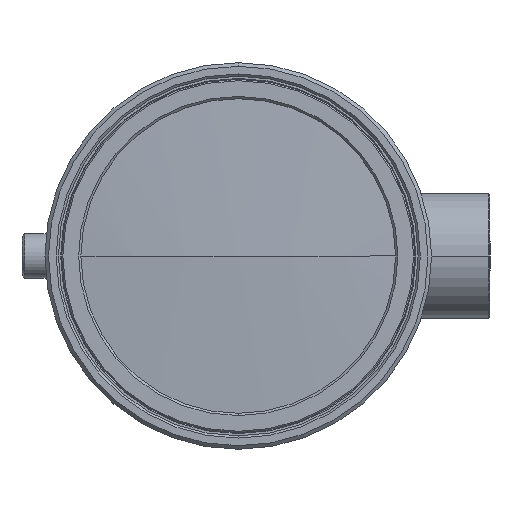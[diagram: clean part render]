
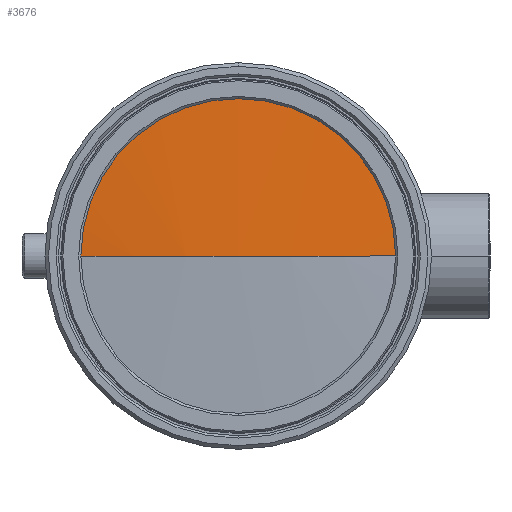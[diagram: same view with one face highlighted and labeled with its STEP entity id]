
A CAD part, left-side view. The second image highlights one B-rep face of the part: STEP entity #3676.
In plain terms, the highlighted spherical face has radius 200 mm.
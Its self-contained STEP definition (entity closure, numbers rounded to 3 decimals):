
#19 = VERTEX_POINT ( 'NONE', #2791 ) ;
#112 = DIRECTION ( 'NONE',  ( 0., 0., 1. ) ) ;
#115 = ORIENTED_EDGE ( 'NONE', *, *, #3344, .F. ) ;
#146 = CARTESIAN_POINT ( 'NONE',  ( -215.239, 17.5, 0. ) ) ;
#391 = CARTESIAN_POINT ( 'NONE',  ( -16.006, 0., 0. ) ) ;
#500 = DIRECTION ( 'NONE',  ( 0., 0., 1. ) ) ;
#679 = EDGE_CURVE ( 'NONE', #19, #3654, #1656, .T. ) ;
#715 = EDGE_LOOP ( 'NONE', ( #2792, #1383, #115, #2400 ) ) ;
#731 = CIRCLE ( 'NONE', #3308, 17.5 ) ;
#737 = AXIS2_PLACEMENT_3D ( 'NONE', #1484, #1205, #2057 ) ;
#912 = AXIS2_PLACEMENT_3D ( 'NONE', #391, #112, #2142 ) ;
#1151 = DIRECTION ( 'NONE',  ( 0., 0., -1. ) ) ;
#1205 = DIRECTION ( 'NONE',  ( 0., 0., -1. ) ) ;
#1383 = ORIENTED_EDGE ( 'NONE', *, *, #679, .T. ) ;
#1471 = DIRECTION ( 'NONE',  ( 1., 0., 0. ) ) ;
#1484 = CARTESIAN_POINT ( 'NONE',  ( -16.006, 0., 0. ) ) ;
#1532 = AXIS2_PLACEMENT_3D ( 'NONE', #2324, #1471, #1151 ) ;
#1656 = CIRCLE ( 'NONE', #912, 200. ) ;
#1677 = EDGE_CURVE ( 'NONE', #2693, #1791, #731, .T. ) ;
#1725 = CARTESIAN_POINT ( 'NONE',  ( -215.239, 0., 17.5 ) ) ;
#1791 = VERTEX_POINT ( 'NONE', #1725 ) ;
#1872 = DIRECTION ( 'NONE',  ( 0., 0., -1. ) ) ;
#2057 = DIRECTION ( 'NONE',  ( -1., 0., 0. ) ) ;
#2105 = AXIS2_PLACEMENT_3D ( 'NONE', #2240, #500, #3108 ) ;
#2142 = DIRECTION ( 'NONE',  ( 0., -1., 0. ) ) ;
#2160 = CIRCLE ( 'NONE', #737, 200. ) ;
#2168 = CARTESIAN_POINT ( 'NONE',  ( -215.239, -17.5, 0. ) ) ;
#2240 = CARTESIAN_POINT ( 'NONE',  ( -16.006, 0., 0. ) ) ;
#2324 = CARTESIAN_POINT ( 'NONE',  ( -215.239, 0., 0. ) ) ;
#2400 = ORIENTED_EDGE ( 'NONE', *, *, #1677, .F. ) ;
#2693 = VERTEX_POINT ( 'NONE', #146 ) ;
#2723 = CARTESIAN_POINT ( 'NONE',  ( -215.239, 0., 0. ) ) ;
#2791 = CARTESIAN_POINT ( 'NONE',  ( -216.006, 0., 0. ) ) ;
#2792 = ORIENTED_EDGE ( 'NONE', *, *, #3332, .F. ) ;
#2832 = CIRCLE ( 'NONE', #1532, 17.5 ) ;
#2995 = FACE_OUTER_BOUND ( 'NONE', #715, .T. ) ;
#3039 = SPHERICAL_SURFACE ( 'NONE', #2105, 200. ) ;
#3108 = DIRECTION ( 'NONE',  ( 0., 1., 0. ) ) ;
#3308 = AXIS2_PLACEMENT_3D ( 'NONE', #2723, #3611, #1872 ) ;
#3332 = EDGE_CURVE ( 'NONE', #19, #2693, #2160, .T. ) ;
#3344 = EDGE_CURVE ( 'NONE', #1791, #3654, #2832, .T. ) ;
#3611 = DIRECTION ( 'NONE',  ( 1., 0., 0. ) ) ;
#3654 = VERTEX_POINT ( 'NONE', #2168 ) ;
#3676 = ADVANCED_FACE ( 'NONE', ( #2995 ), #3039, .T. ) ;
